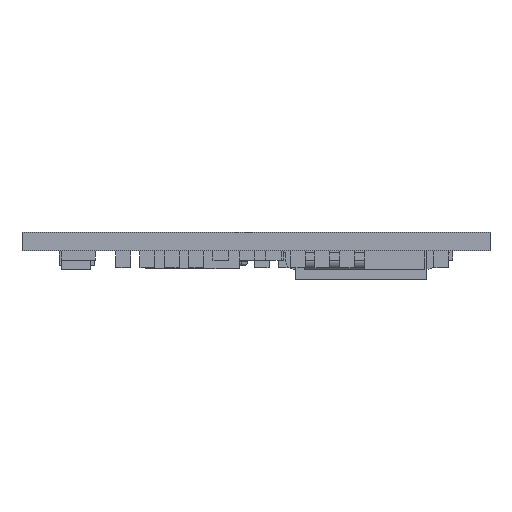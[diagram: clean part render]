
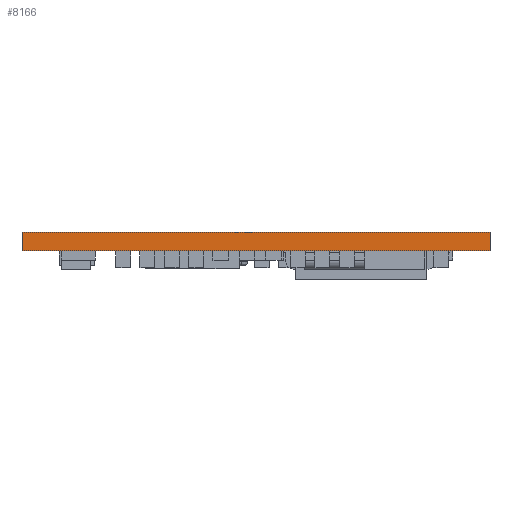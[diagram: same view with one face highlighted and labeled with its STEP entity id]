
A CAD part, front view. The second image highlights one B-rep face of the part: STEP entity #8166.
In plain terms, the highlighted planar face has unit normal (0, -1, 0).
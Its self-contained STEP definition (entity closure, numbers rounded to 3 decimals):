
#673=DIRECTION('',(-1.,0.,0.));
#674=VECTOR('',#673,25.);
#675=CARTESIAN_POINT('',(12.5,-8.4,0.));
#676=LINE('',#675,#674);
#2503=DIRECTION('',(-1.,0.,0.));
#2504=VECTOR('',#2503,25.);
#2505=CARTESIAN_POINT('',(12.5,-8.4,1.));
#2506=LINE('',#2505,#2504);
#2659=DIRECTION('',(0.,0.,1.));
#2660=VECTOR('',#2659,1.);
#2661=CARTESIAN_POINT('',(-12.5,-8.4,0.));
#2662=LINE('',#2661,#2660);
#2823=DIRECTION('',(0.,0.,1.));
#2824=VECTOR('',#2823,1.);
#2825=CARTESIAN_POINT('',(12.5,-8.4,0.));
#2826=LINE('',#2825,#2824);
#3901=CARTESIAN_POINT('',(12.5,-8.4,0.));
#3902=CARTESIAN_POINT('',(-12.5,-8.4,0.));
#3903=VERTEX_POINT('',#3901);
#3904=VERTEX_POINT('',#3902);
#3909=CARTESIAN_POINT('',(12.5,-8.4,1.));
#3910=CARTESIAN_POINT('',(-12.5,-8.4,1.));
#3911=VERTEX_POINT('',#3909);
#3912=VERTEX_POINT('',#3910);
#8155=CARTESIAN_POINT('',(12.5,-8.4,0.));
#8156=DIRECTION('',(0.,-1.,0.));
#8157=DIRECTION('',(-1.,0.,0.));
#8158=AXIS2_PLACEMENT_3D('',#8155,#8156,#8157);
#8159=PLANE('',#8158);
#8160=ORIENTED_EDGE('',*,*,#3992,.T.);
#8161=ORIENTED_EDGE('',*,*,#7829,.T.);
#8162=ORIENTED_EDGE('',*,*,#7656,.F.);
#8163=ORIENTED_EDGE('',*,*,#7528,.F.);
#8164=EDGE_LOOP('',(#8160,#8161,#8162,#8163));
#8165=FACE_OUTER_BOUND('',#8164,.F.);
#8166=ADVANCED_FACE('',(#8165),#8159,.T.);
#3992=EDGE_CURVE('',#3903,#3904,#676,.T.);
#7528=EDGE_CURVE('',#3903,#3911,#2826,.T.);
#7656=EDGE_CURVE('',#3911,#3912,#2506,.T.);
#7829=EDGE_CURVE('',#3904,#3912,#2662,.T.);
